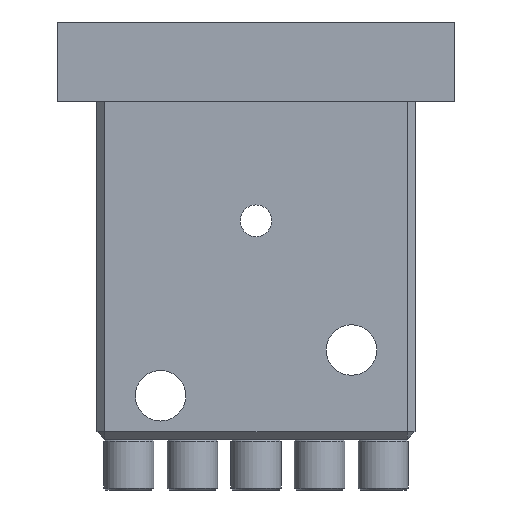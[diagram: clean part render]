
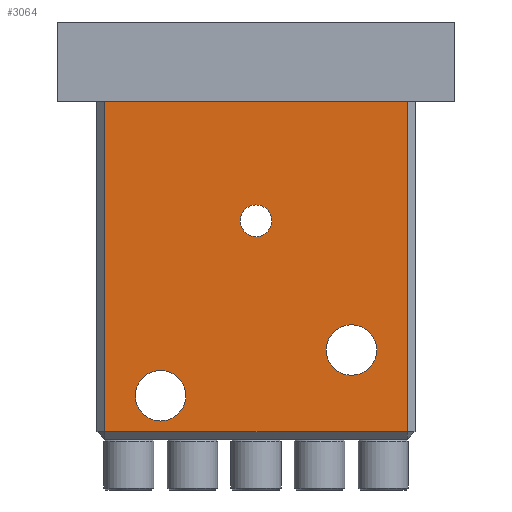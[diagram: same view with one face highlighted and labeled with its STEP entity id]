
A CAD part, front view. The second image highlights one B-rep face of the part: STEP entity #3064.
In plain terms, the highlighted planar face has unit normal (0, -1, 0).
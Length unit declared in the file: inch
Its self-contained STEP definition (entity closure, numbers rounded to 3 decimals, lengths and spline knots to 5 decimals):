
#88=LINE('',#4613,#280);
#95=LINE('',#4627,#287);
#99=LINE('',#4633,#291);
#105=LINE('',#4715,#297);
#280=VECTOR('',#3685,0.3937);
#287=VECTOR('',#3696,0.3937);
#291=VECTOR('',#3704,0.3937);
#297=VECTOR('',#3814,0.3937);
#470=PLANE('',#3346);
#597=FACE_BOUND('',#1009,.T.);
#598=FACE_BOUND('',#1010,.T.);
#599=FACE_BOUND('',#1011,.T.);
#765=FACE_OUTER_BOUND('',#1008,.T.);
#1008=EDGE_LOOP('',(#2166,#2167,#2168,#2169));
#1009=EDGE_LOOP('',(#2170));
#1010=EDGE_LOOP('',(#2171));
#1011=EDGE_LOOP('',(#2172));
#1321=CIRCLE('',#3283,0.25);
#1329=CIRCLE('',#3307,0.157);
#1330=CIRCLE('',#3309,0.25);
#1463=VERTEX_POINT('',#4571);
#1476=VERTEX_POINT('',#4606);
#1478=VERTEX_POINT('',#4611);
#1479=VERTEX_POINT('',#4616);
#1482=VERTEX_POINT('',#4623);
#1491=VERTEX_POINT('',#4657);
#1492=VERTEX_POINT('',#4660);
#1729=EDGE_CURVE('',#1463,#1463,#1321,.T.);
#1748=EDGE_CURVE('',#1478,#1476,#88,.T.);
#1755=EDGE_CURVE('',#1479,#1482,#95,.T.);
#1759=EDGE_CURVE('',#1476,#1479,#99,.T.);
#1771=EDGE_CURVE('',#1491,#1491,#1329,.T.);
#1772=EDGE_CURVE('',#1492,#1492,#1330,.T.);
#1789=EDGE_CURVE('',#1482,#1478,#105,.T.);
#2166=ORIENTED_EDGE('',*,*,#1748,.F.);
#2167=ORIENTED_EDGE('',*,*,#1789,.F.);
#2168=ORIENTED_EDGE('',*,*,#1755,.F.);
#2169=ORIENTED_EDGE('',*,*,#1759,.F.);
#2170=ORIENTED_EDGE('',*,*,#1729,.T.);
#2171=ORIENTED_EDGE('',*,*,#1771,.T.);
#2172=ORIENTED_EDGE('',*,*,#1772,.T.);
#3064=ADVANCED_FACE('',(#765,#597,#598,#599),#470,.T.);
#3283=AXIS2_PLACEMENT_3D('',#4572,#3651,#3652);
#3307=AXIS2_PLACEMENT_3D('',#4658,#3733,#3734);
#3309=AXIS2_PLACEMENT_3D('',#4661,#3737,#3738);
#3346=AXIS2_PLACEMENT_3D('',#4714,#3812,#3813);
#3651=DIRECTION('center_axis',(0.,1.,0.));
#3652=DIRECTION('ref_axis',(1.,0.,0.));
#3685=DIRECTION('',(0.,0.,-1.));
#3696=DIRECTION('',(0.,0.,1.));
#3704=DIRECTION('',(-1.,0.,0.));
#3733=DIRECTION('center_axis',(0.,1.,0.));
#3734=DIRECTION('ref_axis',(1.,0.,0.));
#3737=DIRECTION('center_axis',(0.,1.,0.));
#3738=DIRECTION('ref_axis',(1.,0.,0.));
#3812=DIRECTION('center_axis',(0.,-1.,0.));
#3813=DIRECTION('ref_axis',(1.,0.,0.));
#3814=DIRECTION('',(1.,0.,0.));
#4571=CARTESIAN_POINT('',(-0.69488,-0.59055,-0.94488));
#4572=CARTESIAN_POINT('Origin',(-0.94488,-0.59055,-0.94488));
#4606=CARTESIAN_POINT('',(1.49606,-0.59055,-1.29921));
#4611=CARTESIAN_POINT('',(1.49606,-0.59055,1.9685));
#4613=CARTESIAN_POINT('',(1.49606,-0.59055,0.29528));
#4616=CARTESIAN_POINT('',(-1.49606,-0.59055,-1.29921));
#4623=CARTESIAN_POINT('',(-1.49606,-0.59055,1.9685));
#4627=CARTESIAN_POINT('',(-1.49606,-0.59055,0.29528));
#4633=CARTESIAN_POINT('',(-0.7874,-0.59055,-1.29921));
#4657=CARTESIAN_POINT('',(0.157,-0.59055,0.7874));
#4658=CARTESIAN_POINT('Origin',(0.,-0.59055,0.7874));
#4660=CARTESIAN_POINT('',(1.19488,-0.59055,-0.49213));
#4661=CARTESIAN_POINT('Origin',(0.94488,-0.59055,-0.49213));
#4714=CARTESIAN_POINT('Origin',(-1.5748,-0.59055,0.29528));
#4715=CARTESIAN_POINT('',(-1.5748,-0.59055,1.9685));
